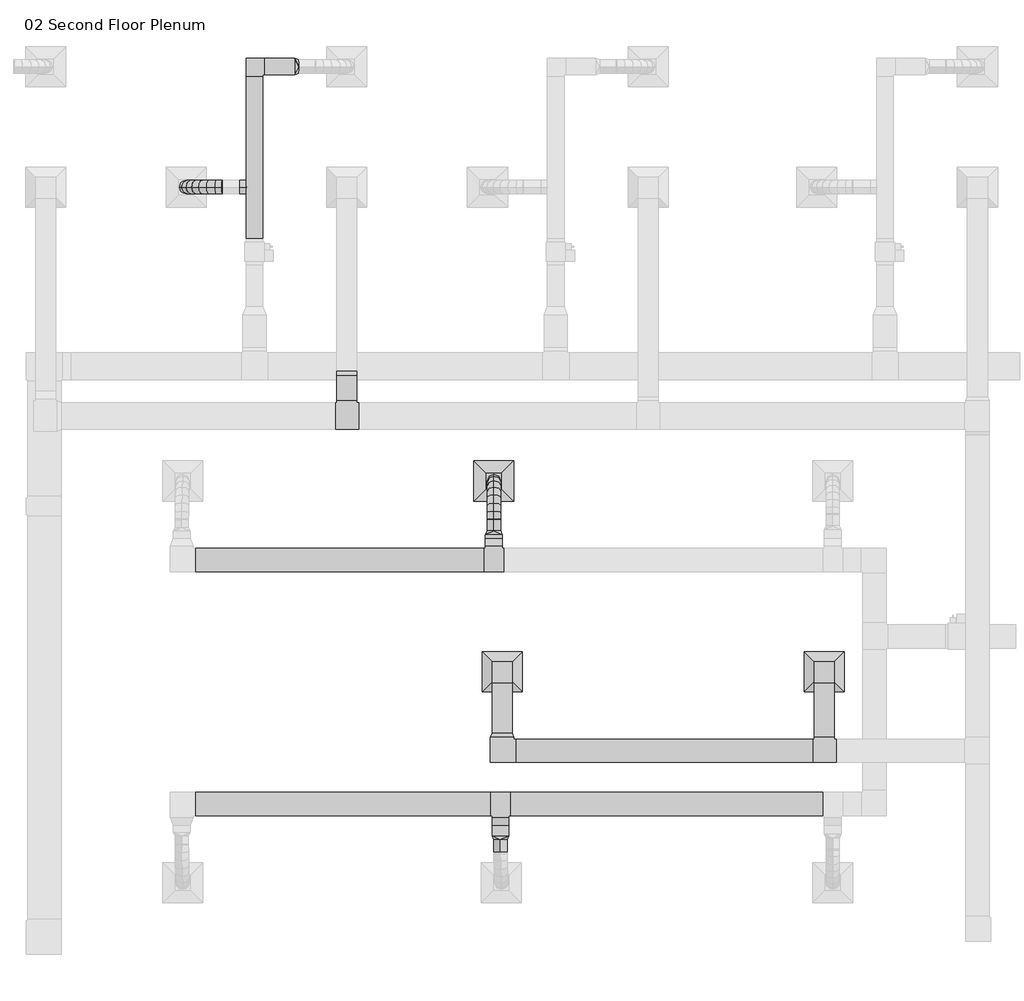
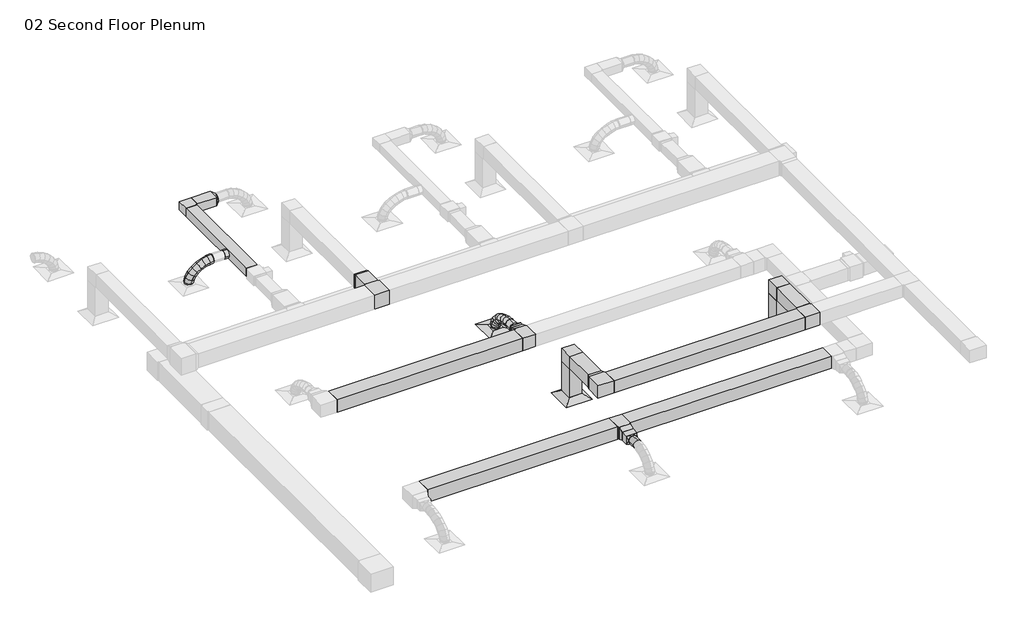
# One storey, part 7 of 12: 17 duct segments, 16 duct fittings, 3 air terminals.
"""IFC4 building model written with IfcOpenShell, lengths in millimetres."""

from ifc_helpers import new_model, si_unit, point, frame, frame_2d, origin, place, context, project, spatial, polyline, circle_curve, ellipse_curve, trimmed, segment, composite_curve, outline, extrude, transform, mapped, element, save
from ifc_brep_helpers import plane_surface, cylinder_surface, advanced_brep
from components import return_diffuser_d30_returndiffuser_24x24_12x12_connection_ff543d60, supply_diffuser_rectangular_face_round_neck_d30_6390248a, rectangular_elbow_mitered_standard_f09b78ec, rectangular_elbow_mitered_standard_452c98c7, rectangular_elbow_mitered_standard_4ff1c4e8, rectangular_tee_standard_b02a46a0, rectangular_tee_standard_0ce2a782, rectangular_tee_standard_b910b0bc, rectangular_transition_angle_45_degree_65bf7615, rectangular_transition_angle_45_degree_0def93a9, rectangular_transition_angle_45_degree_91b25721, rectangular_to_round_transition_angle_45_degree_e9430680, round_takeoff_standard_1127d77f

model = new_model("IFC4")

# Units and contexts
model_context = context("Model", 3, world=origin())
ifc_project = project(units=[si_unit("LENGTHUNIT", "METRE", prefix="MILLI")], contexts=[model_context])

# Site, building, storey
site = spatial("IfcSite", under=ifc_project)
building = spatial("IfcBuilding", under=site)
storey = spatial("IfcBuildingStorey", under=building, Name="02 Second Floor Plenum", Elevation=3048.0)

# Air terminals
placement = place(None, origin())
return_diffuser_d30_returndiffuser_24x24_12x12_connection_shape = return_diffuser_d30_returndiffuser_24x24_12x12_connection_ff543d60(model_context)
element("IfcAirTerminal", 1, ObjectType="Return Diffuser : D30_ReturnDiffuser_24x24 12x12 Connection", at=placement, inside=storey, context=model_context, shape_type="MappedRepresentation", body=[
    mapped(return_diffuser_d30_returndiffuser_24x24_12x12_connection_shape, transform((7928.87093, 2680.2921675, 3048.0), x_axis=(1.0, 0.0, 0.0), y_axis=(0.0, 1.0, 0.0), z_axis=(0.0, 0.0, 1.0))),
])
element("IfcAirTerminal", 2, ObjectType="Return Diffuser : D30_ReturnDiffuser_24x24 12x12 Connection", at=placement, inside=storey, context=model_context, shape_type="MappedRepresentation", body=[
    mapped(return_diffuser_d30_returndiffuser_24x24_12x12_connection_shape, transform((3038.451634, 2680.2921675, 3048.0), x_axis=(1.0, 0.0, 0.0), y_axis=(0.0, 1.0, 0.0), z_axis=(0.0, 0.0, 1.0))),
])
supply_diffuser_rectangular_face_round_neck_d30_shape = supply_diffuser_rectangular_face_round_neck_d30_6390248a(model_context)
element("IfcAirTerminal", 3, ObjectType="Supply Diffuser - Rectangular Face Round Neck : D30_SupplyDiffuser_24x24 8 Neck", at=placement, inside=storey, context=model_context, shape_type="MappedRepresentation", body=[
    mapped(supply_diffuser_rectangular_face_round_neck_d30_shape, transform((2911.451634, 5575.8921675, 3048.0), x_axis=(1.0, 0.0, 0.0), y_axis=(0.0, 1.0, 0.0), z_axis=(0.0, 0.0, 1.0))),
])

# Duct fittings
rectangular_elbow_mitered_standard_shape = rectangular_elbow_mitered_standard_f09b78ec(model_context)
element("IfcDuctFitting", 4, ObjectType="Rectangular Elbow - Mitered : Standard", at=placement, inside=storey, context=model_context, shape_type="MappedRepresentation", body=[
    mapped(rectangular_elbow_mitered_standard_shape, transform((-720.748366, 11865.5671675, 3505.2), x_axis=(-1.0, 0.0, 0.0), y_axis=(0.0, -1.0, 0.0), z_axis=(0.0, 0.0, 1.0))),
])
rectangular_elbow_mitered_standard_2_shape = rectangular_elbow_mitered_standard_452c98c7(model_context)
element("IfcDuctFitting", 5, ObjectType="Rectangular Elbow - Mitered : Standard", at=placement, inside=storey, context=model_context, shape_type="MappedRepresentation", body=[
    mapped(rectangular_elbow_mitered_standard_2_shape, transform((3038.451634, 1482.2580171, 4038.6), x_axis=(0.0, -1.0, 0.0), y_axis=(1.0, 0.0, 0.0), z_axis=(0.0, 0.0, 1.0))),
])
rectangular_elbow_mitered_standard_3_shape = rectangular_elbow_mitered_standard_4ff1c4e8(model_context)
element("IfcDuctFitting", 6, ObjectType="Rectangular Elbow - Mitered : Standard", at=placement, inside=storey, context=model_context, shape_type="MappedRepresentation", body=[
    mapped(rectangular_elbow_mitered_standard_3_shape, transform((3038.451634, 2680.2921675, 4038.6), x_axis=(0.0, 0.0, 1.0), y_axis=(0.0, -1.0, 0.0), z_axis=(1.0, 0.0, 0.0))),
])
element("IfcDuctFitting", 7, ObjectType="Rectangular Elbow - Mitered : Standard", at=placement, inside=storey, context=model_context, shape_type="MappedRepresentation", body=[
    mapped(rectangular_elbow_mitered_standard_3_shape, transform((7928.87093, 2680.2921675, 4038.6), x_axis=(0.0, 0.0, 1.0), y_axis=(0.0, -1.0, 0.0), z_axis=(1.0, 0.0, 0.0))),
])
rectangular_tee_standard_shape = rectangular_tee_standard_b02a46a0(model_context)
element("IfcDuctFitting", 8, ObjectType="Rectangular Tee : Standard", at=placement, inside=storey, context=model_context, shape_type="MappedRepresentation", body=[
    mapped(rectangular_tee_standard_shape, transform((7928.87093, 1482.2580171, 4038.6), x_axis=(-1.0, 0.0, 0.0), y_axis=(0.0, -1.0, 0.0), z_axis=(0.0, 0.0, 1.0))),
])
rectangular_tee_standard_2_shape = rectangular_tee_standard_0ce2a782(model_context)
element("IfcDuctFitting", 9, ObjectType="Rectangular Tee : Standard", at=placement, inside=storey, context=model_context, shape_type="MappedRepresentation", body=[
    mapped(rectangular_tee_standard_2_shape, transform((2911.451634, 4380.2636656, 3505.2), x_axis=(-1.0, 0.0, 0.0), y_axis=(0.0, -1.0, 0.0), z_axis=(0.0, 0.0, 1.0))),
])
element("IfcDuctFitting", 10, ObjectType="Rectangular Tee : Standard", at=placement, inside=storey, context=model_context, shape_type="MappedRepresentation", body=[
    mapped(rectangular_tee_standard_2_shape, transform((3012.2148996, 675.5206694, 3505.2), x_axis=(1.0, 0.0, 0.0), y_axis=(0.0, 1.0, 0.0), z_axis=(0.0, 0.0, 1.0))),
])
rectangular_tee_standard_3_shape = rectangular_tee_standard_b910b0bc(model_context)
element("IfcDuctFitting", 11, ObjectType="Rectangular Tee : Standard", at=placement, inside=storey, context=model_context, shape_type="MappedRepresentation", body=[
    mapped(rectangular_tee_standard_3_shape, transform((682.0693882, 6562.5101985, 4038.6), x_axis=(-1.0, 0.0, 0.0), y_axis=(0.0, -1.0, 0.0), z_axis=(0.0, 0.0, 1.0))),
])
rectangular_transition_angle_45_degree_shape = rectangular_transition_angle_45_degree_65bf7615(model_context)
element("IfcDuctFitting", 12, ObjectType="Rectangular Transition - Angle : 45 Degree", at=placement, inside=storey, context=model_context, shape_type="MappedRepresentation", body=[
    mapped(rectangular_transition_angle_45_degree_shape, transform((3038.451634, 1685.4580171, 4038.6), x_axis=(0.0, 1.0, 0.0), y_axis=(-1.0, 0.0, 0.0), z_axis=(0.0, 0.0, 1.0))),
])
rectangular_transition_angle_45_degree_2_shape = rectangular_transition_angle_45_degree_0def93a9(model_context)
element("IfcDuctFitting", 13, ObjectType="Rectangular Transition - Angle : 45 Degree", at=placement, inside=storey, context=model_context, shape_type="MappedRepresentation", body=[
    mapped(rectangular_transition_angle_45_degree_2_shape, transform((2911.451634, 4583.4636656, 3505.2), x_axis=(0.0, 1.0, 0.0), y_axis=(-1.0, 0.0, 0.0), z_axis=(0.0, 0.0, 1.0))),
])
element("IfcDuctFitting", 14, ObjectType="Rectangular Transition - Angle : 45 Degree", at=placement, inside=storey, context=model_context, shape_type="MappedRepresentation", body=[
    mapped(rectangular_transition_angle_45_degree_2_shape, transform((3012.2148996, 472.3206694, 3505.2), x_axis=(0.0, -1.0, 0.0), y_axis=(1.0, 0.0, 0.0), z_axis=(0.0, 0.0, 1.0))),
])
rectangular_transition_angle_45_degree_3_shape = rectangular_transition_angle_45_degree_91b25721(model_context)
element("IfcDuctFitting", 15, ObjectType="Rectangular Transition - Angle : 45 Degree", at=placement, inside=storey, context=model_context, shape_type="MappedRepresentation", body=[
    mapped(rectangular_transition_angle_45_degree_3_shape, transform((682.0693882, 7182.6309801, 4038.6), x_axis=(0.0, 1.0, 0.0), y_axis=(-1.0, 0.0, 0.0), z_axis=(0.0, 0.0, 1.0))),
])
rectangular_to_round_transition_angle_45_degree_shape = rectangular_to_round_transition_angle_45_degree_e9430680(model_context)
element("IfcDuctFitting", 16, ObjectType="Rectangular to Round Transition - Angle : 45 Degree", at=placement, inside=storey, context=model_context, shape_type="MappedRepresentation", body=[
    mapped(rectangular_to_round_transition_angle_45_degree_shape, transform((-111.148366, 11865.5671675, 3505.2), x_axis=(1.0, 0.0, 0.0), y_axis=(0.0, 1.0, 0.0), z_axis=(0.0, 0.0, 1.0))),
])
element("IfcDuctFitting", 17, ObjectType="Rectangular to Round Transition - Angle : 45 Degree", at=placement, inside=storey, context=model_context, shape_type="MappedRepresentation", body=[
    mapped(rectangular_to_round_transition_angle_45_degree_shape, transform((2911.451634, 4761.2636656, 3505.2), x_axis=(0.0, 1.0, 0.0), y_axis=(-1.0, 0.0, 0.0), z_axis=(0.0, 0.0, 1.0))),
])
element("IfcDuctFitting", 18, ObjectType="Rectangular to Round Transition - Angle : 45 Degree", at=placement, inside=storey, context=model_context, shape_type="MappedRepresentation", body=[
    mapped(rectangular_to_round_transition_angle_45_degree_shape, transform((3012.2148996, 192.9206694, 3505.2), x_axis=(0.0, -1.0, 0.0), y_axis=(1.0, 0.0, 0.0), z_axis=(0.0, 0.0, 1.0))),
])
round_takeoff_standard_shape = round_takeoff_standard_1127d77f(model_context)
element("IfcDuctFitting", 19, ObjectType="Round Takeoff : Standard", at=placement, inside=storey, context=model_context, shape_type="MappedRepresentation", body=[
    mapped(round_takeoff_standard_shape, transform((-847.748366, 10036.7671675, 3505.2), x_axis=(-1.0, 0.0, 0.0), y_axis=(0.0, 1.0, 0.0), z_axis=(0.0, 0.0, -1.0))),
])

# Duct segments
element("IfcDuctSegment", 20, ObjectType="Flex - Round", at=placement, inside=storey, context=model_context, shape_type="AdvancedBrep", body=[
    advanced_brep(
    [(-1203.348366, 9935.1671675, 3505.2), (-1203.348366, 10036.7671675, 3403.6), (-1203.348366, 10138.3671675, 3505.2), (-1203.348366, 10036.7671675, 3606.8), (-1213.550614, 9935.1671675, 3505.2), (-1207.8750929, 10036.7671675, 3403.6), (-1213.550614, 10138.3671675, 3505.2), (-1219.2261351, 10036.7671675, 3606.8), (-1757.1542617, 9935.1671675, 3101.975), (-1858.7542617, 10036.7671675, 3101.975), (-1757.1542617, 10138.3671675, 3101.975), (-1655.5542617, 10036.7671675, 3101.975), (-1305.9257887, 9935.1671675, 3494.847276), (-1286.593384, 10036.7671675, 3394.7778382), (-1305.9257887, 10138.3671675, 3494.847276), (-1325.2581935, 10036.7671675, 3594.9167138), (-1413.0020777, 9935.1671675, 3465.2048655), (-1378.4297131, 10036.7671675, 3369.3543743), (-1413.0020777, 10138.3671675, 3465.2048655), (-1447.5744422, 10036.7671675, 3561.0553568), (-1517.1854541, 9935.1671675, 3418.396411), (-1468.1078152, 10036.7671675, 3329.0629813), (-1517.1854541, 10138.3671675, 3418.396411), (-1566.263093, 10036.7671675, 3507.7298408), (-1611.0841394, 9935.1671675, 3356.5455549), (-1546.9689142, 10036.7671675, 3277.1173499), (-1611.0841394, 10138.3671675, 3356.5455549), (-1675.1993646, 10036.7671675, 3435.9737598), (-1687.3063549, 9935.1671675, 3281.7759394), (-1606.8169244, 10036.7671675, 3218.4098894), (-1687.3063549, 10138.3671675, 3281.7759394), (-1767.7957854, 10036.7671675, 3345.1419893), (-1738.4603219, 9935.1671675, 3196.211207), (-1643.5666037, 10036.7671675, 3156.9390659), (-1738.4603219, 10138.3671675, 3196.211207), (-1833.35404, 10036.7671675, 3235.483348), (-1757.1542617, 9935.1671675, 3121.7444887), (-1655.5542617, 10036.7671675, 3109.1866092), (-1757.1542617, 10138.3671675, 3121.7444887), (-1858.7542617, 10036.7671675, 3134.3023681)],
    [
        (0, 1, circle_curve(frame((-1203.348366, 10036.7671675, 3505.2), z_axis=(1.0, 0.0, 0.0), x_axis=(0.0, -1.0, 0.0)), 101.6)),
        (1, 2, circle_curve(frame((-1203.348366, 10036.7671675, 3505.2), z_axis=(1.0, 0.0, 0.0), x_axis=(0.0, -1.0, 0.0)), 101.6)),
        (2, 3, circle_curve(frame((-1203.348366, 10036.7671675, 3505.2), z_axis=(1.0, 0.0, 0.0), x_axis=(0.0, -1.0, 0.0)), 101.6)),
        (3, 0, circle_curve(frame((-1203.348366, 10036.7671675, 3505.2), z_axis=(1.0, 0.0, 0.0), x_axis=(0.0, -1.0, 0.0)), 101.6)),
        (0, 4),
        (4, 5, ellipse_curve(frame((-1213.550614, 10036.7671675, 3505.2), z_axis=(0.9984433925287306, 0.0, 0.05577447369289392), x_axis=(0.055774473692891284, 0.0, -0.9984433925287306)), 101.7583979, 101.6)),
        (5, 1),
        (5, 6, ellipse_curve(frame((-1213.550614, 10036.7671675, 3505.2), z_axis=(0.9984433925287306, 0.0, 0.05577447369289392), x_axis=(0.055774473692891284, 0.0, -0.9984433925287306)), 101.7583979, 101.6)),
        (6, 2),
        (6, 7, ellipse_curve(frame((-1213.550614, 10036.7671675, 3505.2), z_axis=(0.9984433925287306, 0.0, 0.05577447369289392), x_axis=(0.055774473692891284, 0.0, -0.9984433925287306)), 101.7583979, 101.6)),
        (7, 3),
        (7, 4, ellipse_curve(frame((-1213.550614, 10036.7671675, 3505.2), z_axis=(0.9984433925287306, 0.0, 0.05577447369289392), x_axis=(0.055774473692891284, 0.0, -0.9984433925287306)), 101.7583979, 101.6)),
        (8, 9, circle_curve(frame((-1757.1542617, 10036.7671675, 3101.975), z_axis=(0.0, 0.0, -1.0), x_axis=(0.0, -1.0, 0.0)), 101.6)),
        (9, 10, circle_curve(frame((-1757.1542617, 10036.7671675, 3101.975), z_axis=(0.0, 0.0, -1.0), x_axis=(0.0, -1.0, 0.0)), 101.6)),
        (10, 11, circle_curve(frame((-1757.1542617, 10036.7671675, 3101.975), z_axis=(0.0, 0.0, -1.0), x_axis=(0.0, -1.0, 0.0)), 101.6)),
        (11, 8, circle_curve(frame((-1757.1542617, 10036.7671675, 3101.975), z_axis=(0.0, 0.0, -1.0), x_axis=(0.0, -1.0, 0.0)), 101.6)),
        (4, 12),
        (12, 13, ellipse_curve(frame((-1305.9257887, 10036.7671675, 3494.847276), z_axis=(0.9818454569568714, 0.0, 0.18968262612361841), x_axis=(0.18968262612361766, 0.0, -0.9818454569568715)), 101.9197442, 101.6)),
        (13, 5),
        (13, 14, ellipse_curve(frame((-1305.9257887, 10036.7671675, 3494.847276), z_axis=(0.9818454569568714, 0.0, 0.18968262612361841), x_axis=(0.18968262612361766, 0.0, -0.9818454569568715)), 101.9197442, 101.6)),
        (14, 6),
        (14, 15, ellipse_curve(frame((-1305.9257887, 10036.7671675, 3494.847276), z_axis=(0.9818454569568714, 0.0, 0.18968262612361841), x_axis=(0.18968262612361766, 0.0, -0.9818454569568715)), 101.9197442, 101.6)),
        (15, 7),
        (15, 12, ellipse_curve(frame((-1305.9257887, 10036.7671675, 3494.847276), z_axis=(0.9818454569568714, 0.0, 0.18968262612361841), x_axis=(0.18968262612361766, 0.0, -0.9818454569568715)), 101.9197442, 101.6)),
        (12, 16),
        (16, 17, ellipse_curve(frame((-1413.0020777, 10036.7671675, 3465.2048655), z_axis=(0.9406802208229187, 0.0, 0.3392944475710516), x_axis=(0.33929444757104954, 0.0, -0.9406802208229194)), 101.8948726, 101.6)),
        (17, 13),
        (17, 18, ellipse_curve(frame((-1413.0020777, 10036.7671675, 3465.2048655), z_axis=(0.9406802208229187, 0.0, 0.3392944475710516), x_axis=(0.33929444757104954, 0.0, -0.9406802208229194)), 101.8948726, 101.6)),
        (18, 14),
        (18, 19, ellipse_curve(frame((-1413.0020777, 10036.7671675, 3465.2048655), z_axis=(0.9406802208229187, 0.0, 0.3392944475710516), x_axis=(0.33929444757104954, 0.0, -0.9406802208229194)), 101.8948726, 101.6)),
        (19, 15),
        (19, 16, ellipse_curve(frame((-1413.0020777, 10036.7671675, 3465.2048655), z_axis=(0.9406802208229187, 0.0, 0.3392944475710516), x_axis=(0.33929444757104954, 0.0, -0.9406802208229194)), 101.8948726, 101.6)),
        (16, 20),
        (20, 21, ellipse_curve(frame((-1517.1854541, 10036.7671675, 3418.396411), z_axis=(0.8764467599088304, 0.0, 0.4814987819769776), x_axis=(0.481498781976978, 0.0, -0.8764467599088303)), 101.9268184, 101.6)),
        (21, 17),
        (21, 22, ellipse_curve(frame((-1517.1854541, 10036.7671675, 3418.396411), z_axis=(0.8764467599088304, 0.0, 0.4814987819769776), x_axis=(0.481498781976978, 0.0, -0.8764467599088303)), 101.9268184, 101.6)),
        (22, 18),
        (22, 23, ellipse_curve(frame((-1517.1854541, 10036.7671675, 3418.396411), z_axis=(0.8764467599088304, 0.0, 0.4814987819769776), x_axis=(0.481498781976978, 0.0, -0.8764467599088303)), 101.9268184, 101.6)),
        (23, 19),
        (23, 20, ellipse_curve(frame((-1517.1854541, 10036.7671675, 3418.396411), z_axis=(0.8764467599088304, 0.0, 0.4814987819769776), x_axis=(0.481498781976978, 0.0, -0.8764467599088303)), 101.9268184, 101.6)),
        (20, 24),
        (24, 25, ellipse_curve(frame((-1611.0841394, 10036.7671675, 3356.5455549), z_axis=(0.7781246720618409, 0.0, 0.6281098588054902), x_axis=(0.628109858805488, 0.0, -0.7781246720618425)), 102.0764509, 101.6)),
        (25, 21),
        (25, 26, ellipse_curve(frame((-1611.0841394, 10036.7671675, 3356.5455549), z_axis=(0.7781246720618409, 0.0, 0.6281098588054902), x_axis=(0.628109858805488, 0.0, -0.7781246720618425)), 102.0764509, 101.6)),
        (26, 22),
        (26, 27, ellipse_curve(frame((-1611.0841394, 10036.7671675, 3356.5455549), z_axis=(0.7781246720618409, 0.0, 0.6281098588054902), x_axis=(0.628109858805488, 0.0, -0.7781246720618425)), 102.0764509, 101.6)),
        (27, 23),
        (27, 24, ellipse_curve(frame((-1611.0841394, 10036.7671675, 3356.5455549), z_axis=(0.7781246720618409, 0.0, 0.6281098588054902), x_axis=(0.628109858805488, 0.0, -0.7781246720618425)), 102.0764509, 101.6)),
        (24, 28),
        (28, 29, ellipse_curve(frame((-1687.3063549, 10036.7671675, 3281.7759394), z_axis=(0.6185718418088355, 0.0, 0.7857282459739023), x_axis=(0.7857282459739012, 0.0, -0.6185718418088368)), 102.4392733, 101.6)),
        (29, 25),
        (29, 30, ellipse_curve(frame((-1687.3063549, 10036.7671675, 3281.7759394), z_axis=(0.6185718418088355, 0.0, 0.7857282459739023), x_axis=(0.7857282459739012, 0.0, -0.6185718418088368)), 102.4392733, 101.6)),
        (30, 26),
        (30, 31, ellipse_curve(frame((-1687.3063549, 10036.7671675, 3281.7759394), z_axis=(0.6185718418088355, 0.0, 0.7857282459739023), x_axis=(0.7857282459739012, 0.0, -0.6185718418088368)), 102.4392733, 101.6)),
        (31, 27),
        (31, 28, ellipse_curve(frame((-1687.3063549, 10036.7671675, 3281.7759394), z_axis=(0.6185718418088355, 0.0, 0.7857282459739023), x_axis=(0.7857282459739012, 0.0, -0.6185718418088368)), 102.4392733, 101.6)),
        (28, 32),
        (32, 33, ellipse_curve(frame((-1738.4603219, 10036.7671675, 3196.211207), z_axis=(0.3823998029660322, 0.0, 0.9239969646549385), x_axis=(0.9239969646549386, 0.0, -0.3823998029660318)), 102.6991666, 101.6)),
        (33, 29),
        (33, 34, ellipse_curve(frame((-1738.4603219, 10036.7671675, 3196.211207), z_axis=(0.3823998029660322, 0.0, 0.9239969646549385), x_axis=(0.9239969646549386, 0.0, -0.3823998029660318)), 102.6991666, 101.6)),
        (34, 30),
        (34, 35, ellipse_curve(frame((-1738.4603219, 10036.7671675, 3196.211207), z_axis=(0.3823998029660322, 0.0, 0.9239969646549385), x_axis=(0.9239969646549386, 0.0, -0.3823998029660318)), 102.6991666, 101.6)),
        (35, 31),
        (35, 32, ellipse_curve(frame((-1738.4603219, 10036.7671675, 3196.211207), z_axis=(0.3823998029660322, 0.0, 0.9239969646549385), x_axis=(0.9239969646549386, 0.0, -0.3823998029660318)), 102.6991666, 101.6)),
        (32, 36),
        (36, 37, ellipse_curve(frame((-1757.1542617, 10036.7671675, 3121.7444887), z_axis=(0.12266771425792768, 0.0, 0.992447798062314), x_axis=(0.9924477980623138, 0.0, -0.12266771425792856)), 102.3731426, 101.6)),
        (37, 33),
        (37, 38, ellipse_curve(frame((-1757.1542617, 10036.7671675, 3121.7444887), z_axis=(0.12266771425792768, 0.0, 0.992447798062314), x_axis=(0.9924477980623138, 0.0, -0.12266771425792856)), 102.3731426, 101.6)),
        (38, 34),
        (38, 39, ellipse_curve(frame((-1757.1542617, 10036.7671675, 3121.7444887), z_axis=(0.12266771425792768, 0.0, 0.992447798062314), x_axis=(0.9924477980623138, 0.0, -0.12266771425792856)), 102.3731426, 101.6)),
        (39, 35),
        (39, 36, ellipse_curve(frame((-1757.1542617, 10036.7671675, 3121.7444887), z_axis=(0.12266771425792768, 0.0, 0.992447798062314), x_axis=(0.9924477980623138, 0.0, -0.12266771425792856)), 102.3731426, 101.6)),
        (36, 8),
        (11, 37),
        (10, 38),
        (9, 39),
    ],
    [
        plane_surface(frame((-1203.348366, 10036.7671675, 3403.6), z_axis=(1.0, 0.0, 0.0), x_axis=(0.0, -1.0, 0.0))),
        cylinder_surface(frame((-1203.348366, 10036.7671675, 3505.2), z_axis=(1.0, 0.0, 0.0), x_axis=(0.0, -1.0, 0.0)), 101.6),
        plane_surface(frame((-1757.1542617, 9935.1671675, 3101.975), z_axis=(0.0, 0.0, -1.0), x_axis=(-1.0, 0.0, 0.0))),
        cylinder_surface(frame((-1213.550614, 10036.7671675, 3505.2), z_axis=(0.9937784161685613, 0.0, 0.11137530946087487), x_axis=(0.0, -1.0, 0.0)), 101.6),
        cylinder_surface(frame((-1305.9257887, 10036.7671675, 3494.847276), z_axis=(0.9637519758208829, 0.0, 0.2667997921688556), x_axis=(0.0, -1.0, 0.0)), 101.6),
        cylinder_surface(frame((-1413.0020777, 10036.7671675, 3465.2048655), z_axis=(0.9121640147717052, 0.0, 0.4098253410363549), x_axis=(0.0, -1.0, 0.0)), 101.6),
        cylinder_surface(frame((-1517.1854541, 10036.7671675, 3418.396411), z_axis=(0.8351090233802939, 0.0, 0.550084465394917), x_axis=(0.0, -1.0, 0.0)), 101.6),
        cylinder_surface(frame((-1611.0841394, 10036.7671675, 3356.5455549), z_axis=(0.7138763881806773, 0.0, 0.7002717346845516), x_axis=(0.0, -1.0, 0.0)), 101.6),
        cylinder_surface(frame((-1687.3063549, 10036.7671675, 3281.7759394), z_axis=(0.5131315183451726, 0.0, 0.8583099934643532), x_axis=(0.0, -1.0, 0.0)), 101.6),
        cylinder_surface(frame((-1738.4603219, 10036.7671675, 3196.211207), z_axis=(0.24348260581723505, 0.0, 0.9699052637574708), x_axis=(0.0, -1.0, 0.0)), 101.6),
        cylinder_surface(frame((-1757.1542617, 10036.7671675, 3121.7444887), z_axis=(0.0, 0.0, 1.0), x_axis=(0.0, -1.0, 0.0)), 101.6),
    ],
    [
        (0, [[1, 2, 3, 4]]),
        (1, [[-1, 5, 6, 7]]),
        (1, [[-2, -7, 8, 9]]),
        (1, [[-3, -9, 10, 11]]),
        (1, [[-4, -11, 12, -5]]),
        (2, [[13, 14, 15, 16]]),
        (3, [[-6, 17, 18, 19]]),
        (3, [[-8, -19, 20, 21]]),
        (3, [[-10, -21, 22, 23]]),
        (3, [[-12, -23, 24, -17]]),
        (4, [[-18, 25, 26, 27]]),
        (4, [[-20, -27, 28, 29]]),
        (4, [[-22, -29, 30, 31]]),
        (4, [[-24, -31, 32, -25]]),
        (5, [[-26, 33, 34, 35]]),
        (5, [[-28, -35, 36, 37]]),
        (5, [[-30, -37, 38, 39]]),
        (5, [[-32, -39, 40, -33]]),
        (6, [[-34, 41, 42, 43]]),
        (6, [[-36, -43, 44, 45]]),
        (6, [[-38, -45, 46, 47]]),
        (6, [[-40, -47, 48, -41]]),
        (7, [[-42, 49, 50, 51]]),
        (7, [[-44, -51, 52, 53]]),
        (7, [[-46, -53, 54, 55]]),
        (7, [[-48, -55, 56, -49]]),
        (8, [[-50, 57, 58, 59]]),
        (8, [[-52, -59, 60, 61]]),
        (8, [[-54, -61, 62, 63]]),
        (8, [[-56, -63, 64, -57]]),
        (9, [[-58, 65, 66, 67]]),
        (9, [[-60, -67, 68, 69]]),
        (9, [[-62, -69, 70, 71]]),
        (9, [[-64, -71, 72, -65]]),
        (10, [[-66, 73, -16, 74]]),
        (10, [[-68, -74, -15, 75]]),
        (10, [[-70, -75, -14, 76]]),
        (10, [[-72, -76, -13, -73]]),
    ],
),
])
element("IfcDuctSegment", 21, ObjectType="Flex - Round", at=placement, inside=storey, context=model_context, shape_type="AdvancedBrep", body=[
    advanced_brep(
    [(2809.851634, 4989.8636656, 3505.2), (2911.451634, 4989.8636656, 3403.6), (3013.051634, 4989.8636656, 3505.2), (2911.451634, 4989.8636656, 3606.8), (2809.851634, 4999.2065038, 3505.2), (2911.451634, 4994.0800416, 3403.6), (3013.051634, 4999.2065038, 3505.2), (2911.451634, 5004.3329661, 3606.8), (2809.851634, 5575.8921675, 3101.975), (2911.451634, 5677.4921675, 3101.975), (3013.051634, 5575.8921675, 3101.975), (2911.451634, 5474.2921675, 3101.975), (2809.851634, 5096.9865997, 3495.3073736), (2911.451634, 5079.3001766, 3394.9780923), (3013.051634, 5096.9865997, 3495.3073736), (2911.451634, 5114.6730229, 3595.6366549), (2809.851634, 5209.7396792, 3466.7385243), (2911.451634, 5177.6994174, 3370.0461517), (3013.051634, 5209.7396792, 3466.7385243), (2911.451634, 5241.779941, 3563.4308968), (2809.851634, 5320.0639015, 3421.1569967), (2911.451634, 5273.9208566, 3330.2913264), (3013.051634, 5320.0639015, 3421.1569967), (2911.451634, 5366.2069464, 3512.022667), (2809.851634, 5419.900264, 3360.2263358), (2911.451634, 5358.5042395, 3278.6696398), (3013.051634, 5419.900264, 3360.2263358), (2911.451634, 5481.2962886, 3441.7830318), (2809.851634, 5501.1897642, 3285.6100862), (2911.451634, 5422.5040839, 3219.9236965), (3013.051634, 5501.1897642, 3285.6100862), (2911.451634, 5579.8754446, 3351.2964758), (2809.851634, 5555.8733996, 3198.9717926), (2911.451634, 5461.5670685, 3158.0340598), (3013.051634, 5555.8733996, 3198.9717926), (2911.451634, 5650.1797307, 3239.9095255), (2809.851634, 5575.8921675, 3122.5109989), (2911.451634, 5474.2921675, 3109.4311101), (3013.051634, 5575.8921675, 3122.5109989), (2911.451634, 5677.4921675, 3135.5908877)],
    [
        (0, 1, circle_curve(frame((2911.451634, 4989.8636656, 3505.2), z_axis=(0.0, -1.0, 0.0), x_axis=(-1.0, 0.0, 0.0)), 101.6)),
        (1, 2, circle_curve(frame((2911.451634, 4989.8636656, 3505.2), z_axis=(0.0, -1.0, 0.0), x_axis=(-1.0, 0.0, 0.0)), 101.6)),
        (2, 3, circle_curve(frame((2911.451634, 4989.8636656, 3505.2), z_axis=(0.0, -1.0, 0.0), x_axis=(-1.0, 0.0, 0.0)), 101.6)),
        (3, 0, circle_curve(frame((2911.451634, 4989.8636656, 3505.2), z_axis=(0.0, -1.0, 0.0), x_axis=(-1.0, 0.0, 0.0)), 101.6)),
        (0, 4),
        (4, 5, ellipse_curve(frame((2911.451634, 4999.2065038, 3505.2), z_axis=(0.0, -0.9987294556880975, 0.05039319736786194), x_axis=(0.0, -0.05039319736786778, -0.9987294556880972)), 101.7292515, 101.6)),
        (5, 1),
        (5, 6, ellipse_curve(frame((2911.451634, 4999.2065038, 3505.2), z_axis=(0.0, -0.9987294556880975, 0.05039319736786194), x_axis=(0.0, -0.05039319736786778, -0.9987294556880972)), 101.7292515, 101.6)),
        (6, 2),
        (6, 7, ellipse_curve(frame((2911.451634, 4999.2065038, 3505.2), z_axis=(0.0, -0.9987294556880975, 0.05039319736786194), x_axis=(0.0, -0.05039319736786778, -0.9987294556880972)), 101.7292515, 101.6)),
        (7, 3),
        (7, 4, ellipse_curve(frame((2911.451634, 4999.2065038, 3505.2), z_axis=(0.0, -0.9987294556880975, 0.05039319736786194), x_axis=(0.0, -0.05039319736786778, -0.9987294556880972)), 101.7292515, 101.6)),
        (8, 9, circle_curve(frame((2911.451634, 5575.8921675, 3101.975), z_axis=(0.0, 0.0, -1.0), x_axis=(-1.0, 0.0, 0.0)), 101.6)),
        (9, 10, circle_curve(frame((2911.451634, 5575.8921675, 3101.975), z_axis=(0.0, 0.0, -1.0), x_axis=(-1.0, 0.0, 0.0)), 101.6)),
        (10, 11, circle_curve(frame((2911.451634, 5575.8921675, 3101.975), z_axis=(0.0, 0.0, -1.0), x_axis=(-1.0, 0.0, 0.0)), 101.6)),
        (11, 8, circle_curve(frame((2911.451634, 5575.8921675, 3101.975), z_axis=(0.0, 0.0, -1.0), x_axis=(-1.0, 0.0, 0.0)), 101.6)),
        (4, 12),
        (12, 13, ellipse_curve(frame((2911.451634, 5096.9865997, 3495.3073736), z_axis=(0.0, -0.9848150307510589, 0.17360689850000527), x_axis=(0.0, -0.17360689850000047, -0.9848150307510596)), 101.8762693, 101.6)),
        (13, 5),
        (13, 14, ellipse_curve(frame((2911.451634, 5096.9865997, 3495.3073736), z_axis=(0.0, -0.9848150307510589, 0.17360689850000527), x_axis=(0.0, -0.17360689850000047, -0.9848150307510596)), 101.8762693, 101.6)),
        (14, 6),
        (14, 15, ellipse_curve(frame((2911.451634, 5096.9865997, 3495.3073736), z_axis=(0.0, -0.9848150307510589, 0.17360689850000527), x_axis=(0.0, -0.17360689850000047, -0.9848150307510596)), 101.8762693, 101.6)),
        (15, 7),
        (15, 12, ellipse_curve(frame((2911.451634, 5096.9865997, 3495.3073736), z_axis=(0.0, -0.9848150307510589, 0.17360689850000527), x_axis=(0.0, -0.17360689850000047, -0.9848150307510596)), 101.8762693, 101.6)),
        (12, 16),
        (16, 17, ellipse_curve(frame((2911.451634, 5209.7396792, 3466.7385243), z_axis=(0.0, -0.949242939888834, 0.3145438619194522), x_axis=(0.0, -0.3145438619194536, -0.9492429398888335)), 101.8626197, 101.6)),
        (17, 13),
        (17, 18, ellipse_curve(frame((2911.451634, 5209.7396792, 3466.7385243), z_axis=(0.0, -0.949242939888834, 0.3145438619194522), x_axis=(0.0, -0.3145438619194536, -0.9492429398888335)), 101.8626197, 101.6)),
        (18, 14),
        (18, 19, ellipse_curve(frame((2911.451634, 5209.7396792, 3466.7385243), z_axis=(0.0, -0.949242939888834, 0.3145438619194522), x_axis=(0.0, -0.3145438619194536, -0.9492429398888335)), 101.8626197, 101.6)),
        (19, 15),
        (19, 16, ellipse_curve(frame((2911.451634, 5209.7396792, 3466.7385243), z_axis=(0.0, -0.949242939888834, 0.3145438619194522), x_axis=(0.0, -0.3145438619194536, -0.9492429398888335)), 101.8626197, 101.6)),
        (16, 20),
        (20, 21, ellipse_curve(frame((2911.451634, 5320.0639015, 3421.1569967), z_axis=(0.0, -0.8916222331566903, 0.45278007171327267), x_axis=(0.0, -0.45278007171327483, -0.8916222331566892)), 101.910503, 101.6)),
        (21, 17),
        (21, 22, ellipse_curve(frame((2911.451634, 5320.0639015, 3421.1569967), z_axis=(0.0, -0.8916222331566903, 0.45278007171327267), x_axis=(0.0, -0.45278007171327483, -0.8916222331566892)), 101.910503, 101.6)),
        (22, 18),
        (22, 23, ellipse_curve(frame((2911.451634, 5320.0639015, 3421.1569967), z_axis=(0.0, -0.8916222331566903, 0.45278007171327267), x_axis=(0.0, -0.45278007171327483, -0.8916222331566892)), 101.910503, 101.6)),
        (23, 19),
        (23, 20, ellipse_curve(frame((2911.451634, 5320.0639015, 3421.1569967), z_axis=(0.0, -0.8916222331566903, 0.45278007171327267), x_axis=(0.0, -0.45278007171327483, -0.8916222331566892)), 101.910503, 101.6)),
        (20, 24),
        (24, 25, ellipse_curve(frame((2911.451634, 5419.900264, 3360.2263358), z_axis=(0.0, -0.7989242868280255, 0.6014316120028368), x_axis=(0.0, -0.6014316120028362, -0.7989242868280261)), 102.0831352, 101.6)),
        (25, 21),
        (25, 26, ellipse_curve(frame((2911.451634, 5419.900264, 3360.2263358), z_axis=(0.0, -0.7989242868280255, 0.6014316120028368), x_axis=(0.0, -0.6014316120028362, -0.7989242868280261)), 102.0831352, 101.6)),
        (26, 22),
        (26, 27, ellipse_curve(frame((2911.451634, 5419.900264, 3360.2263358), z_axis=(0.0, -0.7989242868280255, 0.6014316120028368), x_axis=(0.0, -0.6014316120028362, -0.7989242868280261)), 102.0831352, 101.6)),
        (27, 23),
        (27, 24, ellipse_curve(frame((2911.451634, 5419.900264, 3360.2263358), z_axis=(0.0, -0.7989242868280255, 0.6014316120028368), x_axis=(0.0, -0.6014316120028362, -0.7989242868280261)), 102.0831352, 101.6)),
        (24, 28),
        (28, 29, ellipse_curve(frame((2911.451634, 5501.1897642, 3285.6100862), z_axis=(0.0, -0.6408462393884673, 0.7676692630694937), x_axis=(0.0, -0.7676692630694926, -0.6408462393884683)), 102.499454, 101.6)),
        (29, 25),
        (29, 30, ellipse_curve(frame((2911.451634, 5501.1897642, 3285.6100862), z_axis=(0.0, -0.6408462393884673, 0.7676692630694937), x_axis=(0.0, -0.7676692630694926, -0.6408462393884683)), 102.499454, 101.6)),
        (30, 26),
        (30, 31, ellipse_curve(frame((2911.451634, 5501.1897642, 3285.6100862), z_axis=(0.0, -0.6408462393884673, 0.7676692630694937), x_axis=(0.0, -0.7676692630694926, -0.6408462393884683)), 102.499454, 101.6)),
        (31, 27),
        (31, 28, ellipse_curve(frame((2911.451634, 5501.1897642, 3285.6100862), z_axis=(0.0, -0.6408462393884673, 0.7676692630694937), x_axis=(0.0, -0.7676692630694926, -0.6408462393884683)), 102.499454, 101.6)),
        (28, 32),
        (32, 33, ellipse_curve(frame((2911.451634, 5555.8733996, 3198.9717926), z_axis=(0.0, -0.3981941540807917, 0.9173011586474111), x_axis=(0.0, -0.9173011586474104, -0.39819415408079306)), 102.8084727, 101.6)),
        (33, 29),
        (33, 34, ellipse_curve(frame((2911.451634, 5555.8733996, 3198.9717926), z_axis=(0.0, -0.3981941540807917, 0.9173011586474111), x_axis=(0.0, -0.9173011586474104, -0.39819415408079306)), 102.8084727, 101.6)),
        (34, 30),
        (34, 35, ellipse_curve(frame((2911.451634, 5555.8733996, 3198.9717926), z_axis=(0.0, -0.3981941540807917, 0.9173011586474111), x_axis=(0.0, -0.9173011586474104, -0.39819415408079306)), 102.8084727, 101.6)),
        (35, 31),
        (35, 32, ellipse_curve(frame((2911.451634, 5555.8733996, 3198.9717926), z_axis=(0.0, -0.3981941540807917, 0.9173011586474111), x_axis=(0.0, -0.9173011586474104, -0.39819415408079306)), 102.8084727, 101.6)),
        (32, 36),
        (36, 37, ellipse_curve(frame((2911.451634, 5575.8921675, 3122.5109989), z_axis=(0.0, -0.12768529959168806, 0.9918147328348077), x_axis=(0.0, -0.9918147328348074, -0.12768529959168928)), 102.4384864, 101.6)),
        (37, 33),
        (37, 38, ellipse_curve(frame((2911.451634, 5575.8921675, 3122.5109989), z_axis=(0.0, -0.12768529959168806, 0.9918147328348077), x_axis=(0.0, -0.9918147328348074, -0.12768529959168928)), 102.4384864, 101.6)),
        (38, 34),
        (38, 39, ellipse_curve(frame((2911.451634, 5575.8921675, 3122.5109989), z_axis=(0.0, -0.12768529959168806, 0.9918147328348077), x_axis=(0.0, -0.9918147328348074, -0.12768529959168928)), 102.4384864, 101.6)),
        (39, 35),
        (39, 36, ellipse_curve(frame((2911.451634, 5575.8921675, 3122.5109989), z_axis=(0.0, -0.12768529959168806, 0.9918147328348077), x_axis=(0.0, -0.9918147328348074, -0.12768529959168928)), 102.4384864, 101.6)),
        (36, 8),
        (11, 37),
        (10, 38),
        (9, 39),
    ],
    [
        plane_surface(frame((2809.851634, 4989.8636656, 3505.2), z_axis=(0.0, -1.0, 0.0), x_axis=(0.0, 0.0, 1.0))),
        cylinder_surface(frame((2911.451634, 4989.8636656, 3505.2), z_axis=(0.0, -1.0, 0.0), x_axis=(-1.0, 0.0, 0.0)), 101.6),
        plane_surface(frame((2911.451634, 5474.2921675, 3101.975), z_axis=(0.0, 0.0, -1.0), x_axis=(-1.0, 0.0, 0.0))),
        cylinder_surface(frame((2911.451634, 4999.2065038, 3505.2), z_axis=(0.0, -0.9949210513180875, 0.10065834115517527), x_axis=(-1.0, 0.0, 0.0)), 101.6),
        cylinder_surface(frame((2911.451634, 5096.9865997, 3495.3073736), z_axis=(0.0, -0.9693677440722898, 0.2456138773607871), x_axis=(-1.0, 0.0, 0.0)), 101.6),
        cylinder_surface(frame((2911.451634, 5209.7396792, 3466.7385243), z_axis=(0.0, -0.924223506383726, 0.38185194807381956), x_axis=(-1.0, 0.0, 0.0)), 101.6),
        cylinder_surface(frame((2911.451634, 5320.0639015, 3421.1569967), z_axis=(0.0, -0.8535877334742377, 0.5209491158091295), x_axis=(-1.0, 0.0, 0.0)), 101.6),
        cylinder_surface(frame((2911.451634, 5419.900264, 3360.2263358), z_axis=(0.0, -0.7366986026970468, 0.6762212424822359), x_axis=(-1.0, 0.0, 0.0)), 101.6),
        cylinder_surface(frame((2911.451634, 5501.1897642, 3285.6100862), z_axis=(0.0, -0.5337467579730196, 0.8456443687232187), x_axis=(-1.0, 0.0, 0.0)), 101.6),
        cylinder_surface(frame((2911.451634, 5555.8733996, 3198.9717926), z_axis=(0.0, -0.25328032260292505, 0.9673929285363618), x_axis=(-1.0, 0.0, 0.0)), 101.6),
        cylinder_surface(frame((2911.451634, 5575.8921675, 3122.5109989), z_axis=(0.0, 0.0, 1.0), x_axis=(-1.0, 0.0, 0.0)), 101.6),
    ],
    [
        (0, [[1, 2, 3, 4]]),
        (1, [[-1, 5, 6, 7]]),
        (1, [[-2, -7, 8, 9]]),
        (1, [[-3, -9, 10, 11]]),
        (1, [[-4, -11, 12, -5]]),
        (2, [[13, 14, 15, 16]]),
        (3, [[-6, 17, 18, 19]]),
        (3, [[-8, -19, 20, 21]]),
        (3, [[-10, -21, 22, 23]]),
        (3, [[-12, -23, 24, -17]]),
        (4, [[-18, 25, 26, 27]]),
        (4, [[-20, -27, 28, 29]]),
        (4, [[-22, -29, 30, 31]]),
        (4, [[-24, -31, 32, -25]]),
        (5, [[-26, 33, 34, 35]]),
        (5, [[-28, -35, 36, 37]]),
        (5, [[-30, -37, 38, 39]]),
        (5, [[-32, -39, 40, -33]]),
        (6, [[-34, 41, 42, 43]]),
        (6, [[-36, -43, 44, 45]]),
        (6, [[-38, -45, 46, 47]]),
        (6, [[-40, -47, 48, -41]]),
        (7, [[-42, 49, 50, 51]]),
        (7, [[-44, -51, 52, 53]]),
        (7, [[-46, -53, 54, 55]]),
        (7, [[-48, -55, 56, -49]]),
        (8, [[-50, 57, 58, 59]]),
        (8, [[-52, -59, 60, 61]]),
        (8, [[-54, -61, 62, 63]]),
        (8, [[-56, -63, 64, -57]]),
        (9, [[-58, 65, 66, 67]]),
        (9, [[-60, -67, 68, 69]]),
        (9, [[-62, -69, 70, 71]]),
        (9, [[-64, -71, 72, -65]]),
        (10, [[-66, 73, -16, 74]]),
        (10, [[-68, -74, -15, 75]]),
        (10, [[-70, -75, -14, 76]]),
        (10, [[-72, -76, -13, -73]]),
    ],
),
])
element("IfcDuctSegment", 22, ObjectType="Mitered Elbows / Tees", at=placement, inside=storey, context=model_context, shape_type="SweptSolid", body=[
    extrude(outline(polyline([(-847.748366, 11713.1671675), (-593.748366, 11713.1671675), (-593.748366, 9252.5421675), (-847.748366, 9252.5421675), (-847.748366, 11713.1671675)])), frame((0.0, 0.0, 3403.6), z_axis=(0.0, 0.0, 1.0), x_axis=(1.0, 0.0, 0.0)), (0.0, 0.0, 1.0), 203.2),
])
element("IfcDuctSegment", 23, ObjectType="Mitered Elbows / Tees", at=placement, inside=storey, context=model_context, shape_type="SweptSolid", body=[
    extrude(outline(polyline([(-568.348366, 11738.5671675), (-568.348366, 11992.5671675), (-111.148366, 11992.5671675), (-111.148366, 11738.5671675), (-568.348366, 11738.5671675)])), frame((0.0, 0.0, 3403.6), z_axis=(0.0, 0.0, 1.0), x_axis=(1.0, 0.0, 0.0)), (0.0, 0.0, 1.0), 203.2),
])
element("IfcDuctSegment", 24, ObjectType="Mitered Elbows / Tees", at=placement, inside=storey, context=model_context, shape_type="SweptSolid", body=[
    extrude(outline(polyline([(2759.051634, 4558.0636656), (2759.051634, 4202.4636656), (-1621.52907, 4202.4636656), (-1621.52907, 4558.0636656), (2759.051634, 4558.0636656)])), frame((0.0, 0.0, 3352.8), z_axis=(0.0, 0.0, 1.0), x_axis=(1.0, 0.0, 0.0)), (0.0, 0.0, 1.0), 304.8),
])
element("IfcDuctSegment", 25, ObjectType="Mitered Elbows / Tees", at=placement, inside=storey, context=model_context, shape_type="SweptSolid", body=[
    extrude(outline(polyline([(2859.8148996, 853.3206694), (2859.8148996, 497.7206694), (-1621.52907, 497.7206694), (-1621.52907, 853.3206694), (2859.8148996, 853.3206694)])), frame((0.0, 0.0, 3352.8), z_axis=(0.0, 0.0, 1.0), x_axis=(1.0, 0.0, 0.0)), (0.0, 0.0, 1.0), 304.8),
])
element("IfcDuctSegment", 26, ObjectType="Mitered Elbows / Tees", at=placement, inside=storey, context=model_context, shape_type="SweptSolid", body=[
    extrude(outline(polyline([(3038.451634, 4706.1057145), (2784.451634, 4706.1057145), (2784.451634, 4761.2636656), (3038.451634, 4761.2636656), (3038.451634, 4706.1057145)])), frame((0.0, 0.0, 3403.6), z_axis=(0.0, 0.0, 1.0), x_axis=(1.0, 0.0, 0.0)), (0.0, 0.0, 1.0), 203.2),
])
element("IfcDuctSegment", 27, ObjectType="Mitered Elbows / Tees", at=placement, inside=storey, context=model_context, shape_type="SweptSolid", body=[
    extrude(outline(polyline([(2885.2148996, 349.6786204), (3139.2148996, 349.6786204), (3139.2148996, 192.9206694), (2885.2148996, 192.9206694), (2885.2148996, 349.6786204)])), frame((0.0, 0.0, 3403.6), z_axis=(0.0, 0.0, 1.0), x_axis=(1.0, 0.0, 0.0)), (0.0, 0.0, 1.0), 203.2),
])
element("IfcDuctSegment", 28, ObjectType="Mitered Elbows / Tees", at=placement, inside=storey, context=model_context, shape_type="SweptSolid", body=[
    extrude(outline(polyline([(7903.47093, 853.3206694), (7903.47093, 497.7206694), (3164.6148996, 497.7206694), (3164.6148996, 853.3206694), (7903.47093, 853.3206694)])), frame((0.0, 0.0, 3352.8), z_axis=(0.0, 0.0, 1.0), x_axis=(1.0, 0.0, 0.0)), (0.0, 0.0, 1.0), 304.8),
])
element("IfcDuctSegment", 29, ObjectType="Mitered Elbows / Tees", at=placement, inside=storey, context=model_context, shape_type="SweptSolid", body=[
    extrude(outline(polyline([(7751.07093, 1660.0580171), (7751.07093, 1304.4580171), (3241.651634, 1304.4580171), (3241.651634, 1660.0580171), (7751.07093, 1660.0580171)])), frame((0.0, 0.0, 3886.2), z_axis=(0.0, 0.0, 1.0), x_axis=(1.0, 0.0, 0.0)), (0.0, 0.0, 1.0), 304.8),
])
element("IfcDuctSegment", 30, ObjectType="Mitered Elbows / Tees", at=placement, inside=storey, context=model_context, shape_type="SweptSolid", body=[
    extrude(outline(polyline([(834.4693882, 6791.1101985), (529.6693882, 6791.1101985), (529.6693882, 7182.6309801), (834.4693882, 7182.6309801), (834.4693882, 6791.1101985)])), frame((0.0, 0.0, 3860.8), z_axis=(0.0, 0.0, 1.0), x_axis=(1.0, 0.0, 0.0)), (0.0, 0.0, 1.0), 355.6),
])
element("IfcDuctSegment", 31, ObjectType="Mitered Elbows / Tees", at=placement, inside=storey, context=model_context, shape_type="SweptSolid", body=[
    extrude(outline(polyline([(8081.27093, 1685.4580171), (7776.47093, 1685.4580171), (7776.47093, 2502.4921675), (8081.27093, 2502.4921675), (8081.27093, 1685.4580171)])), frame((0.0, 0.0, 3886.2), z_axis=(0.0, 0.0, 1.0), x_axis=(1.0, 0.0, 0.0)), (0.0, 0.0, 1.0), 304.8),
])
element("IfcDuctSegment", 32, ObjectType="Mitered Elbows / Tees", at=placement, inside=storey, context=model_context, shape_type="SweptSolid", body=[
    extrude(outline(polyline([(3190.851634, 1746.7790416), (2886.051634, 1746.7790416), (2886.051634, 2502.4921675), (3190.851634, 2502.4921675), (3190.851634, 1746.7790416)])), frame((0.0, 0.0, 3886.2), z_axis=(0.0, 0.0, 1.0), x_axis=(1.0, 0.0, 0.0)), (0.0, 0.0, 1.0), 304.8),
])
element("IfcDuctSegment", 33, ObjectType="Mitered Elbows / Tees", at=placement, inside=storey, context=model_context, shape_type="SweptSolid", body=[
    extrude(outline(polyline([(3190.851634, 2527.8921675), (2886.051634, 2527.8921675), (2886.051634, 2832.6921675), (3190.851634, 2832.6921675), (3190.851634, 2527.8921675)])), frame((0.0, 0.0, 3149.6), z_axis=(0.0, 0.0, 1.0), x_axis=(1.0, 0.0, 0.0)), (0.0, 0.0, 1.0), 711.2),
])
element("IfcDuctSegment", 34, ObjectType="Mitered Elbows / Tees", at=placement, inside=storey, context=model_context, shape_type="SweptSolid", body=[
    extrude(outline(polyline([(8081.27093, 2527.8921675), (7776.47093, 2527.8921675), (7776.47093, 2832.6921675), (8081.27093, 2832.6921675), (8081.27093, 2527.8921675)])), frame((0.0, 0.0, 3149.6), z_axis=(0.0, 0.0, 1.0), x_axis=(1.0, 0.0, 0.0)), (0.0, 0.0, 1.0), 711.2),
])
element("IfcDuctSegment", 35, ObjectType="Taps", at=placement, inside=storey, context=model_context, shape_type="SweptSolid", body=[
    extrude(outline(composite_curve([segment(trimmed(circle_curve(frame_2d((3505.2, 2911.451634)), 101.6), [point((3505.2, 3013.051634))], [point((3606.8, 2911.451634))], False, "CARTESIAN"), True, "CONTINUOUS"), segment(trimmed(circle_curve(frame_2d((3505.2, 2911.451634)), 101.6), [point((3606.8, 2911.451634))], [point((3505.2, 2809.851634))], False, "CARTESIAN"), True, "CONTINUOUS"), segment(trimmed(circle_curve(frame_2d((3505.2, 2911.451634)), 101.6), [point((3505.2, 2809.851634))], [point((3403.6, 2911.451634))], False, "CARTESIAN"), True, "CONTINUOUS"), segment(trimmed(circle_curve(frame_2d((3505.2, 2911.451634)), 101.6), [point((3403.6, 2911.451634))], [point((3505.2, 3013.051634))], False, "CARTESIAN"), True, "CONTINUOUS")], self_intersect=False)), frame((0.0, 4822.5846901, 0.0), z_axis=(0.0, 1.0, 0.0), x_axis=(0.0, 0.0, 1.0)), (0.0, 0.0, 1.0), 167.2789755),
])
element("IfcDuctSegment", 36, ObjectType="Taps", at=placement, inside=storey, context=model_context, shape_type="SweptSolid", body=[
    extrude(outline(composite_curve([segment(trimmed(circle_curve(frame_2d((3505.2, 3012.2148996)), 101.6), [point((3505.2, 2910.6148996))], [point((3403.6, 3012.2148996))], False, "CARTESIAN"), True, "CONTINUOUS"), segment(trimmed(circle_curve(frame_2d((3505.2, 3012.2148996)), 101.6), [point((3403.6, 3012.2148996))], [point((3505.2, 3113.8148996))], False, "CARTESIAN"), True, "CONTINUOUS"), segment(trimmed(circle_curve(frame_2d((3505.2, 3012.2148996)), 101.6), [point((3505.2, 3113.8148996))], [point((3606.8, 3012.2148996))], False, "CARTESIAN"), True, "CONTINUOUS"), segment(trimmed(circle_curve(frame_2d((3505.2, 3012.2148996)), 101.6), [point((3606.8, 3012.2148996))], [point((3505.2, 2910.6148996))], False, "CARTESIAN"), True, "CONTINUOUS")], self_intersect=False)), frame((0.0, -61.0793306, 0.0), z_axis=(0.0, 1.0, 0.0), x_axis=(0.0, 0.0, 1.0)), (0.0, 0.0, 1.0), 192.6789755),
])

save(model, "model.ifc")
